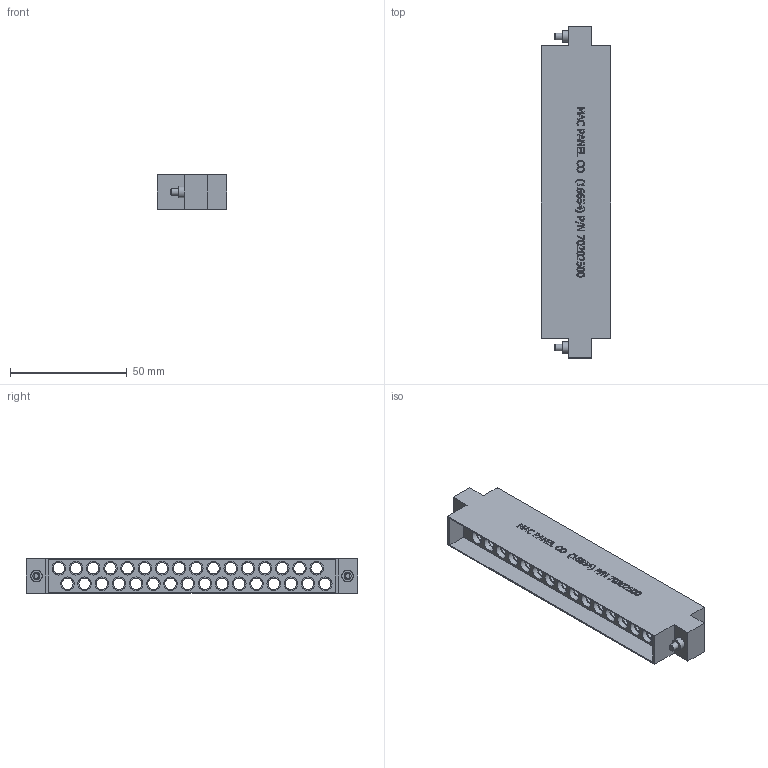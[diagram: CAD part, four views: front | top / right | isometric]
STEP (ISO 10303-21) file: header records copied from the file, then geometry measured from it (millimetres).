
FILE_DESCRIPTION(/* description */ (''),/* implementation_level */ '2;1');
FILE_NAME(/* name */ 'C:\Marketing\Inventor Web Projects\STP files\70202500-RevC-STP.stp',/* time_stamp */ '2014-05-05T13:54:25-05:00',/* author */ ('shodnett'),/* organization */ (''),/* preprocessor_version */ 'ST-DEVELOPER v15.2',/* originating_system */ 'Autodesk Inventor 2014',/* authorisation */ '');
FILE_SCHEMA (('AUTOMOTIVE_DESIGN { 1 0 10303 214 3 1 1 }'));
Length unit declared in the file: inch
Products named in the file (1): 70202500-CU
Bounding box: 29.97 x 142.24 x 14.99 mm (x, y, z)
Surface area: 28620.2 mm2 (no closed solid volume)
Topology: 0 solids, 5 shells, 833 faces, 2044 edges, 1372 vertices
Faces by surface type: plane 424, bspline 261, cylinder 142, cone 6
Full cylindrical faces by diameter (mm): 2.845 x2, 3.048 x2, 3.277 x2, 4.648 x2, 4.851 x32, 4.877 x2, 4.966 x2, 5.791 x64, 5.944 x2, 7.036 x32
Entity records: 25830 total; most frequent: CARTESIAN_POINT 7471, ORIENTED_EDGE 3720, DIRECTION 2760, EDGE_CURVE 1860, VERTEX_POINT 1336, EDGE_LOOP 1204, LINE 1014, VECTOR 1014
